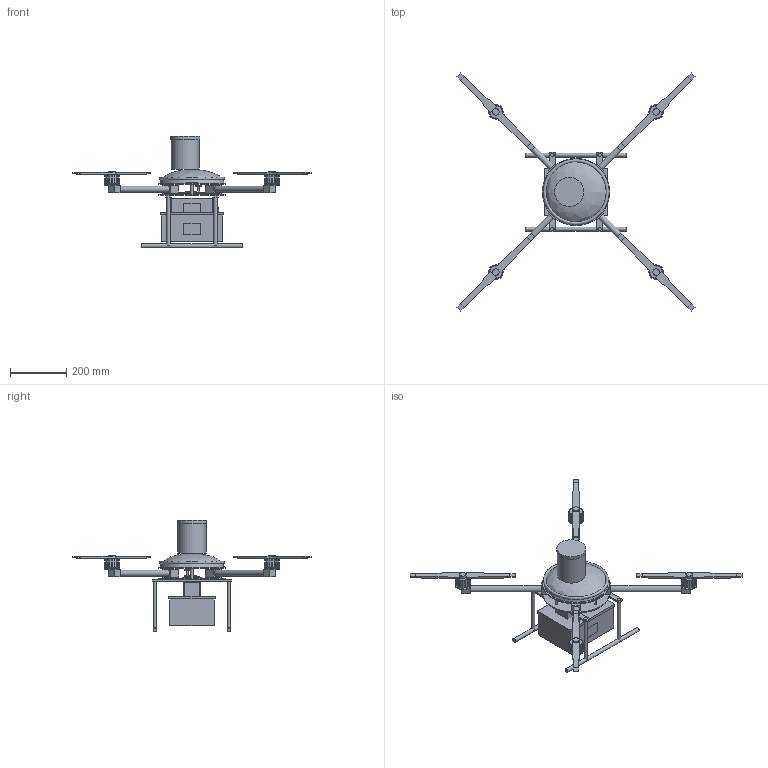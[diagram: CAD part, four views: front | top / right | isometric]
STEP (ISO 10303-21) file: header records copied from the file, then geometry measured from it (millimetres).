
FILE_DESCRIPTION(('FreeCAD Model'),'2;1');
FILE_NAME('Open CASCADE Shape Model','2026-10-22T00:32:18',('Author'),( ''),'Open CASCADE STEP processor 7.8','FreeCAD','Unknown');
FILE_SCHEMA(('AUTOMOTIVE_DESIGN { 1 0 10303 214 1 1 1 1 }'));
Length unit declared in the file: millimetre
Products named in the file (136): Lab Quadcopter 1.1.0; Frame (designed in this System); Lower plate; Upper plate; Standoff; Standoff 2; Standoff 3; Standoff 4; Canopy; Bumper ring; Skid; Leg; Leg 2; Skid 2; Leg 3; Leg 4; Cross bar; Cross bar 2; Sample box; Sample box lid; Safety labels (4); Propeller warning; Battery warning; Medical cargo; Emergency contact; Propulsion; Arm 1.2.0 (1); Root clamp; Tube; Motor mount; Motor 1.1.0 (arm 1); Flange; Neck; Stator with cooling fins; Small propeller 1.2.0 (arm 1); Hub; Blade; Blade tip; Blade 2; Blade tip 2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
Assembly tree (135 placements, depth 5):
  Lab Quadcopter 1.1.0
    Frame (designed in this System)
      Lower plate
      Upper plate
      Standoff
      Standoff 2
      Standoff 3
      Standoff 4
      Canopy
      Bumper ring
      Skid
      Leg
      Leg 2
      Skid 2
      Leg 3
      Leg 4
      Cross bar
      Cross bar 2
      Sample box
      Sample box lid
      Safety labels (4)
        Propeller warning
        Battery warning
        Medical cargo
        Emergency contact
    Propulsion
      Arm 1.2.0 (1)
        Root clamp
        Tube
        Motor mount
        Motor 1.1.0 (arm 1)
          Flange
          Neck
          Stator with cooling fins
        Small propeller 1.2.0 (arm 1)
          Hub
          Blade
          Blade tip
          Blade 2
          Blade tip 2
        Fasteners 1.1.0 (arm 1)
          Screw head M3
          Screw head M3 2
          Screw head M3 3
          Screw head M3 4
      Arm 1.2.0 (2)
        Root clamp 2
        Tube 2
        Motor mount 2
        Motor 1.1.0 (arm 2)
          Flange 2
          Neck 2
          Stator with cooling fins 2
        Small propeller 1.2.0 (arm 2)
          Hub 2
          Blade 3
          Blade tip 3
          Blade 4
          Blade tip 4
        Fasteners 1.1.0 (arm 2)
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Bounding box: 849.94 x 849.94 x 398 mm (x, y, z)
Volume: 8155133.8 mm3; surface area: 1177781 mm2
Topology: 109 solids, 110 shells, 767 faces, 1469 edges, 979 vertices
Faces by surface type: plane 696, cylinder 68, bspline 2, torus 1
Full cylindrical faces by diameter (mm): 4 x16, 5 x4, 6 x1, 8 x4, 12 x4, 14 x2, 20 x1, 21 x12, 22 x4, 24 x8, 46 x4, 52 x4, 100 x1, 104 x1, 240 x2
Entity records: 21448 total; most frequent: DIRECTION 3542, CARTESIAN_POINT 3381, ORIENTED_EDGE 2936, EDGE_CURVE 1468, LINE 1192, VECTOR 1192, AXIS2_PLACEMENT_3D 1175, VERTEX_POINT 979
